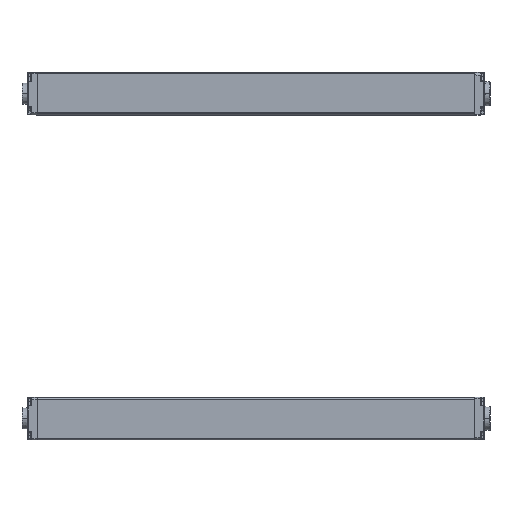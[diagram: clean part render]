
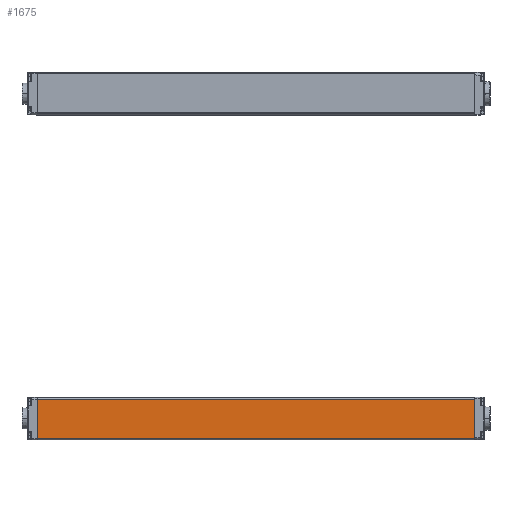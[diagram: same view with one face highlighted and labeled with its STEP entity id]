
A CAD part, left-side view. The second image highlights one B-rep face of the part: STEP entity #1675.
In plain terms, the highlighted planar face has unit normal (-1, 0, -0.009) as drawn and (1, 0, 0) by its records, which use the part's own axes.
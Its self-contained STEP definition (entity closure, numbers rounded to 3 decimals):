
#295 = PLANE ( 'NONE',  #6734 ) ;
#798 = EDGE_CURVE ( 'NONE', #16326, #7459, #8678, .T. ) ;
#1035 = CARTESIAN_POINT ( 'NONE',  ( 15., 0., -16.9 ) ) ;
#1675 = ADVANCED_FACE ( 'NONE', ( #12760 ), #295, .F. ) ;
#1753 = DIRECTION ( 'NONE',  ( 0., 1., 0. ) ) ;
#2128 = CARTESIAN_POINT ( 'NONE',  ( 15., 310., -16.9 ) ) ;
#3104 = VERTEX_POINT ( 'NONE', #4467 ) ;
#3418 = VECTOR ( 'NONE', #5107, 1000. ) ;
#4144 = ORIENTED_EDGE ( 'NONE', *, *, #12435, .T. ) ;
#4467 = CARTESIAN_POINT ( 'NONE',  ( 15., 310., 10.9 ) ) ;
#5107 = DIRECTION ( 'NONE',  ( 0., -1., 0. ) ) ;
#5154 = CARTESIAN_POINT ( 'NONE',  ( 15., 310., -16.693 ) ) ;
#5838 = CARTESIAN_POINT ( 'NONE',  ( 15., 310., -16.9 ) ) ;
#6594 = DIRECTION ( 'NONE',  ( 0., 0., -1. ) ) ;
#6734 = AXIS2_PLACEMENT_3D ( 'NONE', #5838, #11393, #16953 ) ;
#6868 = VECTOR ( 'NONE', #7670, 1000. ) ;
#7459 = VERTEX_POINT ( 'NONE', #5154 ) ;
#7670 = DIRECTION ( 'NONE',  ( 0., 0., -1. ) ) ;
#7821 = EDGE_CURVE ( 'NONE', #3104, #7459, #14593, .T. ) ;
#8097 = EDGE_LOOP ( 'NONE', ( #4144, #17991, #12439, #13804 ) ) ;
#8212 = VERTEX_POINT ( 'NONE', #11671 ) ;
#8678 = LINE ( 'NONE', #14220, #17046 ) ;
#11393 = DIRECTION ( 'NONE',  ( -1., 0., 0. ) ) ;
#11671 = CARTESIAN_POINT ( 'NONE',  ( 15., 0., 10.9 ) ) ;
#12033 = LINE ( 'NONE', #17585, #3418 ) ;
#12435 = EDGE_CURVE ( 'NONE', #8212, #16326, #13522, .T. ) ;
#12439 = ORIENTED_EDGE ( 'NONE', *, *, #7821, .F. ) ;
#12760 = FACE_OUTER_BOUND ( 'NONE', #8097, .T. ) ;
#13522 = LINE ( 'NONE', #1035, #16087 ) ;
#13804 = ORIENTED_EDGE ( 'NONE', *, *, #17989, .T. ) ;
#14220 = CARTESIAN_POINT ( 'NONE',  ( 15., 310., -16.693 ) ) ;
#14593 = LINE ( 'NONE', #2128, #6868 ) ;
#14952 = CARTESIAN_POINT ( 'NONE',  ( 15., 0., -16.693 ) ) ;
#16087 = VECTOR ( 'NONE', #6594, 1000. ) ;
#16326 = VERTEX_POINT ( 'NONE', #14952 ) ;
#16953 = DIRECTION ( 'NONE',  ( 0., 0., 1. ) ) ;
#17046 = VECTOR ( 'NONE', #1753, 1000. ) ;
#17585 = CARTESIAN_POINT ( 'NONE',  ( 15., 310., 10.9 ) ) ;
#17989 = EDGE_CURVE ( 'NONE', #3104, #8212, #12033, .T. ) ;
#17991 = ORIENTED_EDGE ( 'NONE', *, *, #798, .T. ) ;
